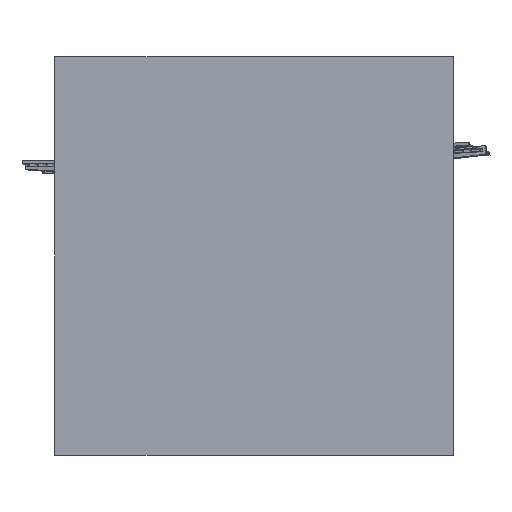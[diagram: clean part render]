
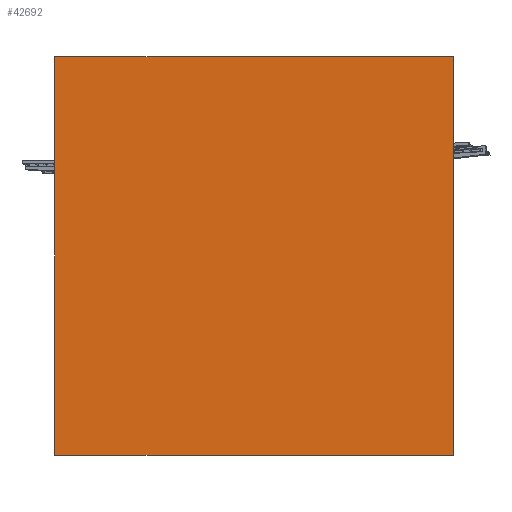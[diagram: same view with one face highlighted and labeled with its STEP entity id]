
A CAD part, front view. The second image highlights one B-rep face of the part: STEP entity #42692.
In plain terms, the highlighted planar face has unit normal (0, -1, 0).
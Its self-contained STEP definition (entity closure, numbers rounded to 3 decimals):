
#7468=FACE_OUTER_BOUND('',#50428,.T.);
#12136=PLANE('',#108999);
#19160=LINE('',#154942,#31859);
#19163=LINE('',#154948,#31862);
#19165=LINE('',#154952,#31864);
#19167=LINE('',#154956,#31866);
#31859=VECTOR('',#119710,1.);
#31862=VECTOR('',#119715,1.);
#31864=VECTOR('',#119719,1.);
#31866=VECTOR('',#119723,1.);
#42692=ADVANCED_FACE('',(#7468),#12136,.F.);
#50428=EDGE_LOOP('',(#60967,#60968,#60969,#60970));
#60967=ORIENTED_EDGE('',*,*,#95813,.F.);
#60968=ORIENTED_EDGE('',*,*,#95820,.F.);
#60969=ORIENTED_EDGE('',*,*,#95818,.F.);
#60970=ORIENTED_EDGE('',*,*,#95816,.F.);
#86117=VERTEX_POINT('',#154943);
#86118=VERTEX_POINT('',#154944);
#86119=VERTEX_POINT('',#154949);
#86120=VERTEX_POINT('',#154953);
#95813=EDGE_CURVE('',#86117,#86118,#19160,.T.);
#95816=EDGE_CURVE('',#86118,#86119,#19163,.T.);
#95818=EDGE_CURVE('',#86119,#86120,#19165,.T.);
#95820=EDGE_CURVE('',#86120,#86117,#19167,.T.);
#108999=AXIS2_PLACEMENT_3D('',#154958,#119726,#119727);
#119710=DIRECTION('',(0.,0.,1.));
#119715=DIRECTION('',(1.,0.,0.));
#119719=DIRECTION('',(0.,0.,-1.));
#119723=DIRECTION('',(-1.,0.,0.));
#119726=DIRECTION('',(0.,1.,0.));
#119727=DIRECTION('',(0.,0.,1.));
#154942=CARTESIAN_POINT('',(-647.997,-4.576,500.212));
#154943=CARTESIAN_POINT('',(-647.997,-4.576,-649.788));
#154944=CARTESIAN_POINT('',(-647.997,-4.576,650.212));
#154948=CARTESIAN_POINT('',(502.003,-4.576,650.212));
#154949=CARTESIAN_POINT('',(652.003,-4.576,650.212));
#154952=CARTESIAN_POINT('',(652.003,-4.576,500.212));
#154953=CARTESIAN_POINT('',(652.003,-4.576,-649.788));
#154956=CARTESIAN_POINT('',(502.003,-4.576,-649.788));
#154958=CARTESIAN_POINT('',(2.003,-4.576,0.212));
